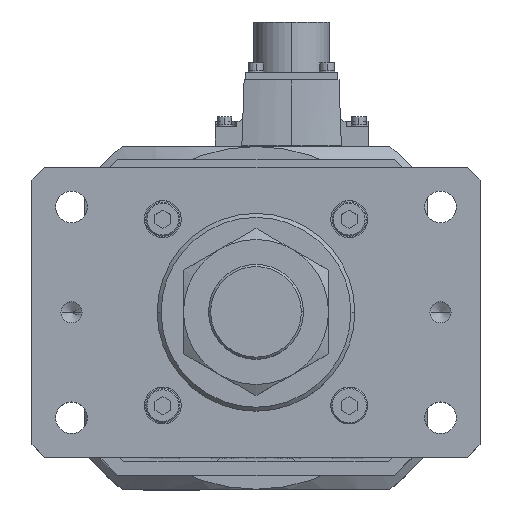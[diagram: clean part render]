
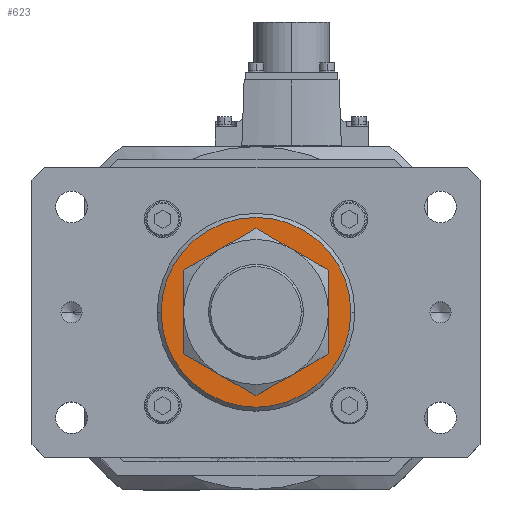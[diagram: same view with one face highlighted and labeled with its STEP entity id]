
A CAD part, top view. The second image highlights one B-rep face of the part: STEP entity #623.
In plain terms, the highlighted planar face has unit normal (0, 0, 1).
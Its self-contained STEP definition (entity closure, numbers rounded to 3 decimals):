
#368 = AXIS2_PLACEMENT_3D ( 'NONE', #5571, #2330, #22547 ) ;
#623 = ADVANCED_FACE ( 'NONE', ( #24240, #13532 ), #36459, .T. ) ;
#1925 = CARTESIAN_POINT ( 'NONE',  ( 36., 0., 946. ) ) ;
#2330 = DIRECTION ( 'NONE',  ( 0., 0., 1. ) ) ;
#2498 = EDGE_CURVE ( 'NONE', #24869, #13809, #35907, .T. ) ;
#4068 = DIRECTION ( 'NONE',  ( 1., 0., 0. ) ) ;
#4913 = ORIENTED_EDGE ( 'NONE', *, *, #13005, .T. ) ;
#5571 = CARTESIAN_POINT ( 'NONE',  ( 0., 0., 946. ) ) ;
#6124 = DIRECTION ( 'NONE',  ( 0., 0., 1. ) ) ;
#7513 = AXIS2_PLACEMENT_3D ( 'NONE', #26186, #6124, #9144 ) ;
#7826 = CARTESIAN_POINT ( 'NONE',  ( 0., 0., 946. ) ) ;
#8384 = DIRECTION ( 'NONE',  ( 0., 0., 1. ) ) ;
#8786 = AXIS2_PLACEMENT_3D ( 'NONE', #7826, #16461, #19435 ) ;
#9144 = DIRECTION ( 'NONE',  ( 1., 0., 0. ) ) ;
#9489 = AXIS2_PLACEMENT_3D ( 'NONE', #29760, #12675, #4068 ) ;
#10043 = EDGE_LOOP ( 'NONE', ( #23858, #15591 ) ) ;
#11999 = ORIENTED_EDGE ( 'NONE', *, *, #25204, .T. ) ;
#12675 = DIRECTION ( 'NONE',  ( 0., 0., -1. ) ) ;
#13005 = EDGE_CURVE ( 'NONE', #26580, #33118, #19724, .T. ) ;
#13532 = FACE_OUTER_BOUND ( 'NONE', #14584, .T. ) ;
#13809 = VERTEX_POINT ( 'NONE', #24904 ) ;
#14584 = EDGE_LOOP ( 'NONE', ( #4913, #11999 ) ) ;
#15591 = ORIENTED_EDGE ( 'NONE', *, *, #27037, .T. ) ;
#16461 = DIRECTION ( 'NONE',  ( 0., 0., -1. ) ) ;
#19435 = DIRECTION ( 'NONE',  ( 1., 0., 0. ) ) ;
#19724 = CIRCLE ( 'NONE', #24110, 36. ) ;
#22547 = DIRECTION ( 'NONE',  ( 1., 0., 0. ) ) ;
#23858 = ORIENTED_EDGE ( 'NONE', *, *, #2498, .T. ) ;
#24110 = AXIS2_PLACEMENT_3D ( 'NONE', #25453, #8384, #34653 ) ;
#24240 = FACE_BOUND ( 'NONE', #10043, .T. ) ;
#24869 = VERTEX_POINT ( 'NONE', #33294 ) ;
#24904 = CARTESIAN_POINT ( 'NONE',  ( -23., 0., 946. ) ) ;
#25204 = EDGE_CURVE ( 'NONE', #33118, #26580, #28555, .T. ) ;
#25453 = CARTESIAN_POINT ( 'NONE',  ( 0., 0., 946. ) ) ;
#26186 = CARTESIAN_POINT ( 'NONE',  ( 0., 0., 946. ) ) ;
#26580 = VERTEX_POINT ( 'NONE', #33027 ) ;
#27037 = EDGE_CURVE ( 'NONE', #13809, #24869, #29516, .T. ) ;
#28555 = CIRCLE ( 'NONE', #7513, 36. ) ;
#29516 = CIRCLE ( 'NONE', #9489, 23. ) ;
#29760 = CARTESIAN_POINT ( 'NONE',  ( 0., 0., 946. ) ) ;
#33027 = CARTESIAN_POINT ( 'NONE',  ( -36., 0., 946. ) ) ;
#33118 = VERTEX_POINT ( 'NONE', #1925 ) ;
#33294 = CARTESIAN_POINT ( 'NONE',  ( 23., 0., 946. ) ) ;
#34653 = DIRECTION ( 'NONE',  ( 1., 0., 0. ) ) ;
#35907 = CIRCLE ( 'NONE', #8786, 23. ) ;
#36459 = PLANE ( 'NONE',  #368 ) ;
